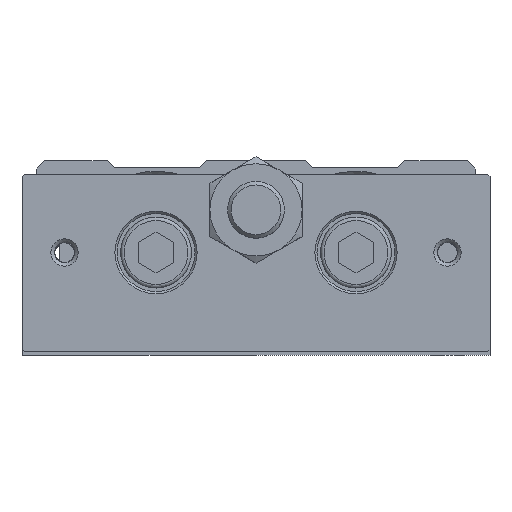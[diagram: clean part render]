
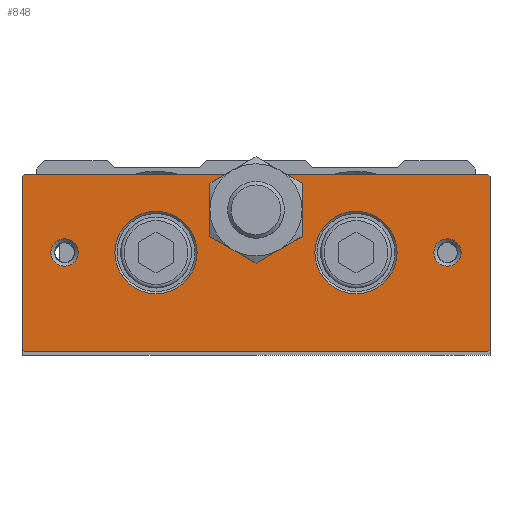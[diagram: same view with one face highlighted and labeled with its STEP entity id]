
A CAD part, top view. The second image highlights one B-rep face of the part: STEP entity #848.
In plain terms, the highlighted planar face has unit normal (0, 0, 1).
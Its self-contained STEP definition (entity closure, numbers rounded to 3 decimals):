
#629=CARTESIAN_POINT('',(-32.7,-14.5,170.0));
#630=VERTEX_POINT('',#629);
#637=CARTESIAN_POINT('',(-33.0,-14.2,170.0));
#638=VERTEX_POINT('',#637);
#639=CARTESIAN_POINT('',(-32.7,-14.5,170.0));
#640=DIRECTION('',(-0.707,0.707,0.0));
#641=VECTOR('',#640,0.424);
#642=LINE('',#639,#641);
#643=EDGE_CURVE('',#630,#638,#642,.T.);
#660=CARTESIAN_POINT('',(-33.0,10.2,170.0));
#661=VERTEX_POINT('',#660);
#662=CARTESIAN_POINT('',(-33.0,10.2,170.0));
#663=DIRECTION('',(0.0,-1.0,0.0));
#664=VECTOR('',#663,24.4);
#665=LINE('',#662,#664);
#666=EDGE_CURVE('',#661,#638,#665,.T.);
#696=CARTESIAN_POINT('',(0.0,-14.5,170.0));
#697=DIRECTION('',(0.0,0.0,1.0));
#698=DIRECTION('',(1.0,0.0,0.0));
#699=AXIS2_PLACEMENT_3D('',#696,#697,#698);
#700=PLANE('',#699);
#701=ORIENTED_EDGE('',*,*,#643,.F.);
#702=CARTESIAN_POINT('',(32.7,-14.5,170.0));
#703=VERTEX_POINT('',#702);
#704=CARTESIAN_POINT('',(-32.7,-14.5,170.0));
#705=DIRECTION('',(1.0,0.0,0.0));
#706=VECTOR('',#705,65.4);
#707=LINE('',#704,#706);
#708=EDGE_CURVE('',#630,#703,#707,.T.);
#709=ORIENTED_EDGE('',*,*,#708,.T.);
#710=CARTESIAN_POINT('',(33.0,-14.2,170.0));
#711=VERTEX_POINT('',#710);
#712=CARTESIAN_POINT('',(33.0,-14.2,170.0));
#713=DIRECTION('',(-0.707,-0.707,0.0));
#714=VECTOR('',#713,0.424);
#715=LINE('',#712,#714);
#716=EDGE_CURVE('',#711,#703,#715,.T.);
#717=ORIENTED_EDGE('',*,*,#716,.F.);
#718=CARTESIAN_POINT('',(33.0,10.2,170.0));
#719=VERTEX_POINT('',#718);
#720=CARTESIAN_POINT('',(33.0,-14.2,170.0));
#721=DIRECTION('',(0.0,1.0,0.0));
#722=VECTOR('',#721,24.4);
#723=LINE('',#720,#722);
#724=EDGE_CURVE('',#711,#719,#723,.T.);
#725=ORIENTED_EDGE('',*,*,#724,.T.);
#726=CARTESIAN_POINT('',(32.7,10.5,170.0));
#727=VERTEX_POINT('',#726);
#728=CARTESIAN_POINT('',(32.7,10.5,170.0));
#729=DIRECTION('',(0.707,-0.707,0.0));
#730=VECTOR('',#729,0.424);
#731=LINE('',#728,#730);
#732=EDGE_CURVE('',#727,#719,#731,.T.);
#733=ORIENTED_EDGE('',*,*,#732,.F.);
#734=CARTESIAN_POINT('',(4.153,10.5,170.0));
#735=VERTEX_POINT('',#734);
#736=CARTESIAN_POINT('',(32.7,10.5,170.0));
#737=DIRECTION('',(-1.0,0.0,0.0));
#738=VECTOR('',#737,28.547);
#739=LINE('',#736,#738);
#740=EDGE_CURVE('',#727,#735,#739,.T.);
#741=ORIENTED_EDGE('',*,*,#740,.T.);
#742=CARTESIAN_POINT('',(6.5,5.5,170.0));
#743=VERTEX_POINT('',#742);
#744=CARTESIAN_POINT('',(0.0,5.5,170.0));
#745=DIRECTION('',(0.0,0.0,1.0));
#746=DIRECTION('',(0.0,1.0,0.0));
#747=AXIS2_PLACEMENT_3D('',#744,#745,#746);
#748=CIRCLE('',#747,6.5);
#749=EDGE_CURVE('',#743,#735,#748,.T.);
#750=ORIENTED_EDGE('',*,*,#749,.F.);
#751=CARTESIAN_POINT('',(3.25,-0.129,170.0));
#752=VERTEX_POINT('',#751);
#753=CARTESIAN_POINT('',(0.0,5.5,170.0));
#754=DIRECTION('',(0.0,0.0,1.0));
#755=DIRECTION('',(0.0,1.0,0.0));
#756=AXIS2_PLACEMENT_3D('',#753,#754,#755);
#757=CIRCLE('',#756,6.5);
#758=EDGE_CURVE('',#752,#743,#757,.T.);
#759=ORIENTED_EDGE('',*,*,#758,.F.);
#760=CARTESIAN_POINT('',(-3.25,-0.129,170.0));
#761=VERTEX_POINT('',#760);
#762=CARTESIAN_POINT('',(0.0,5.5,170.0));
#763=DIRECTION('',(0.0,0.0,1.0));
#764=DIRECTION('',(0.0,1.0,0.0));
#765=AXIS2_PLACEMENT_3D('',#762,#763,#764);
#766=CIRCLE('',#765,6.5);
#767=EDGE_CURVE('',#761,#752,#766,.T.);
#768=ORIENTED_EDGE('',*,*,#767,.F.);
#769=CARTESIAN_POINT('',(-6.5,5.5,170.0));
#770=VERTEX_POINT('',#769);
#771=CARTESIAN_POINT('',(0.0,5.5,170.0));
#772=DIRECTION('',(0.0,0.0,1.0));
#773=DIRECTION('',(0.0,1.0,0.0));
#774=AXIS2_PLACEMENT_3D('',#771,#772,#773);
#775=CIRCLE('',#774,6.5);
#776=EDGE_CURVE('',#770,#761,#775,.T.);
#777=ORIENTED_EDGE('',*,*,#776,.F.);
#778=CARTESIAN_POINT('',(-4.153,10.5,170.0));
#779=VERTEX_POINT('',#778);
#780=CARTESIAN_POINT('',(0.0,5.5,170.0));
#781=DIRECTION('',(0.0,0.0,1.0));
#782=DIRECTION('',(0.0,1.0,0.0));
#783=AXIS2_PLACEMENT_3D('',#780,#781,#782);
#784=CIRCLE('',#783,6.5);
#785=EDGE_CURVE('',#779,#770,#784,.T.);
#786=ORIENTED_EDGE('',*,*,#785,.F.);
#787=CARTESIAN_POINT('',(-32.7,10.5,170.0));
#788=VERTEX_POINT('',#787);
#789=CARTESIAN_POINT('',(-4.153,10.5,170.0));
#790=DIRECTION('',(-1.0,0.0,0.0));
#791=VECTOR('',#790,28.547);
#792=LINE('',#789,#791);
#793=EDGE_CURVE('',#779,#788,#792,.T.);
#794=ORIENTED_EDGE('',*,*,#793,.T.);
#795=CARTESIAN_POINT('',(-33.0,10.2,170.0));
#796=DIRECTION('',(0.707,0.707,0.0));
#797=VECTOR('',#796,0.424);
#798=LINE('',#795,#797);
#799=EDGE_CURVE('',#661,#788,#798,.T.);
#800=ORIENTED_EDGE('',*,*,#799,.F.);
#801=ORIENTED_EDGE('',*,*,#666,.T.);
#802=EDGE_LOOP('',(#701,#709,#717,#725,#733,#741,#750,#759,#768,#777,#786,#794,#800,#801));
#803=FACE_OUTER_BOUND('',#802,.T.);
#804=CARTESIAN_POINT('',(19.9,-0.5,170.0));
#805=VERTEX_POINT('',#804);
#806=CARTESIAN_POINT('',(14.1,-0.5,170.0));
#807=DIRECTION('',(0.0,0.0,1.0));
#808=DIRECTION('',(-1.0,0.0,0.0));
#809=AXIS2_PLACEMENT_3D('',#806,#807,#808);
#810=CIRCLE('',#809,5.8);
#811=EDGE_CURVE('',#805,#805,#810,.T.);
#812=ORIENTED_EDGE('',*,*,#811,.F.);
#813=EDGE_LOOP('',(#812));
#814=FACE_BOUND('',#813,.T.);
#815=CARTESIAN_POINT('',(28.925,-0.5,170.0));
#816=VERTEX_POINT('',#815);
#817=CARTESIAN_POINT('',(27.,-0.5,170.0));
#818=DIRECTION('',(0.0,0.0,1.0));
#819=DIRECTION('',(-1.0,0.0,0.0));
#820=AXIS2_PLACEMENT_3D('',#817,#818,#819);
#821=CIRCLE('',#820,1.925);
#822=EDGE_CURVE('',#816,#816,#821,.T.);
#823=ORIENTED_EDGE('',*,*,#822,.F.);
#824=EDGE_LOOP('',(#823));
#825=FACE_BOUND('',#824,.T.);
#826=CARTESIAN_POINT('',(-25.075,-0.5,170.0));
#827=VERTEX_POINT('',#826);
#828=CARTESIAN_POINT('',(-27.0,-0.5,170.0));
#829=DIRECTION('',(0.0,0.0,1.0));
#830=DIRECTION('',(-1.0,0.0,0.0));
#831=AXIS2_PLACEMENT_3D('',#828,#829,#830);
#832=CIRCLE('',#831,1.925);
#833=EDGE_CURVE('',#827,#827,#832,.T.);
#834=ORIENTED_EDGE('',*,*,#833,.F.);
#835=EDGE_LOOP('',(#834));
#836=FACE_BOUND('',#835,.T.);
#837=CARTESIAN_POINT('',(-8.3,-0.5,170.0));
#838=VERTEX_POINT('',#837);
#839=CARTESIAN_POINT('',(-14.1,-0.5,170.0));
#840=DIRECTION('',(0.0,0.0,1.0));
#841=DIRECTION('',(-1.0,0.0,0.0));
#842=AXIS2_PLACEMENT_3D('',#839,#840,#841);
#843=CIRCLE('',#842,5.8);
#844=EDGE_CURVE('',#838,#838,#843,.T.);
#845=ORIENTED_EDGE('',*,*,#844,.F.);
#846=EDGE_LOOP('',(#845));
#847=FACE_BOUND('',#846,.T.);
#848=ADVANCED_FACE('',(#803,#814,#825,#836,#847),#700,.T.);
